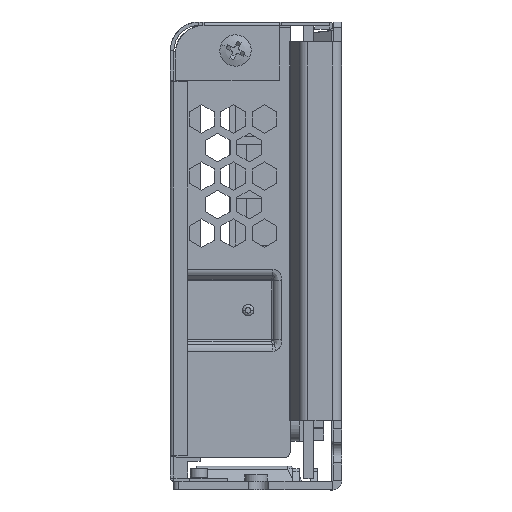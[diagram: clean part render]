
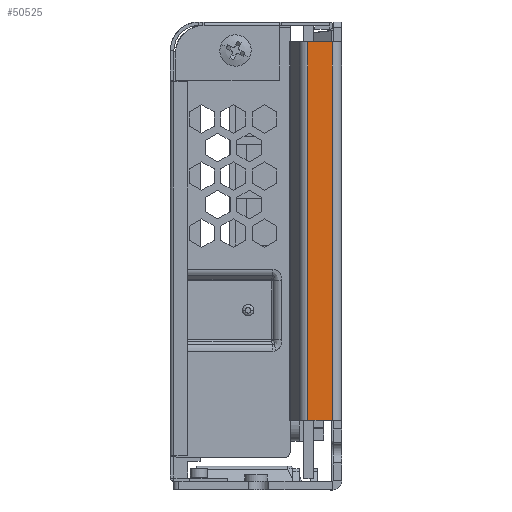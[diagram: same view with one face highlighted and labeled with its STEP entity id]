
A CAD part, left-side view. The second image highlights one B-rep face of the part: STEP entity #50525.
In plain terms, the highlighted planar face has unit normal (-1, 0, 0).
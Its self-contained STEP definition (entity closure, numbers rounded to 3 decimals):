
#5153 = AXIS2_PLACEMENT_3D ( 'NONE', #19294, #36508, #71530 ) ;
#6166 = EDGE_CURVE ( 'NONE', #42849, #36196, #46449, .T. ) ;
#6900 = CARTESIAN_POINT ( 'NONE',  ( -25.193, 36.012, 55.641 ) ) ;
#12334 = EDGE_CURVE ( 'NONE', #92420, #46714, #62685, .T. ) ;
#15123 = CARTESIAN_POINT ( 'NONE',  ( -25.193, 40.342, 55.641 ) ) ;
#19294 = CARTESIAN_POINT ( 'NONE',  ( -25.193, 34.412, 43.441 ) ) ;
#23635 = VECTOR ( 'NONE', #72991, 1000. ) ;
#24088 = VECTOR ( 'NONE', #82408, 1000. ) ;
#36196 = VERTEX_POINT ( 'NONE', #97428 ) ;
#36508 = DIRECTION ( 'NONE',  ( -1., 0., 0. ) ) ;
#42849 = VERTEX_POINT ( 'NONE', #6900 ) ;
#46449 = LINE ( 'NONE', #72849, #102179 ) ;
#46714 = VERTEX_POINT ( 'NONE', #15123 ) ;
#48279 = CARTESIAN_POINT ( 'NONE',  ( -25.193, 40.342, 121.941 ) ) ;
#50525 = ADVANCED_FACE ( 'NONE', ( #79579 ), #96224, .T. ) ;
#54875 = CARTESIAN_POINT ( 'NONE',  ( -25.193, 40.412, 55.641 ) ) ;
#58779 = CARTESIAN_POINT ( 'NONE',  ( -25.193, 40.342, 121.941 ) ) ;
#59876 = DIRECTION ( 'NONE',  ( 0., -1., 0. ) ) ;
#62685 = LINE ( 'NONE', #48279, #23635 ) ;
#65181 = LINE ( 'NONE', #54875, #24088 ) ;
#66339 = EDGE_LOOP ( 'NONE', ( #98455, #78257, #83531, #83417 ) ) ;
#71383 = EDGE_CURVE ( 'NONE', #42849, #46714, #65181, .T. ) ;
#71530 = DIRECTION ( 'NONE',  ( 0., 1., 0. ) ) ;
#72849 = CARTESIAN_POINT ( 'NONE',  ( -25.193, 36.012, 43.441 ) ) ;
#72991 = DIRECTION ( 'NONE',  ( 0., 0., -1. ) ) ;
#78257 = ORIENTED_EDGE ( 'NONE', *, *, #12334, .T. ) ;
#79579 = FACE_OUTER_BOUND ( 'NONE', #66339, .T. ) ;
#82408 = DIRECTION ( 'NONE',  ( 0., 1., 0. ) ) ;
#83417 = ORIENTED_EDGE ( 'NONE', *, *, #6166, .T. ) ;
#83531 = ORIENTED_EDGE ( 'NONE', *, *, #71383, .F. ) ;
#92420 = VERTEX_POINT ( 'NONE', #58779 ) ;
#94896 = CARTESIAN_POINT ( 'NONE',  ( -25.193, 35.912, 121.941 ) ) ;
#96224 = PLANE ( 'NONE',  #5153 ) ;
#97428 = CARTESIAN_POINT ( 'NONE',  ( -25.193, 36.012, 121.941 ) ) ;
#97567 = EDGE_CURVE ( 'NONE', #92420, #36196, #105185, .T. ) ;
#98455 = ORIENTED_EDGE ( 'NONE', *, *, #97567, .F. ) ;
#100813 = VECTOR ( 'NONE', #59876, 1000. ) ;
#102179 = VECTOR ( 'NONE', #107830, 1000. ) ;
#105185 = LINE ( 'NONE', #94896, #100813 ) ;
#107830 = DIRECTION ( 'NONE',  ( 0., 0., 1. ) ) ;
